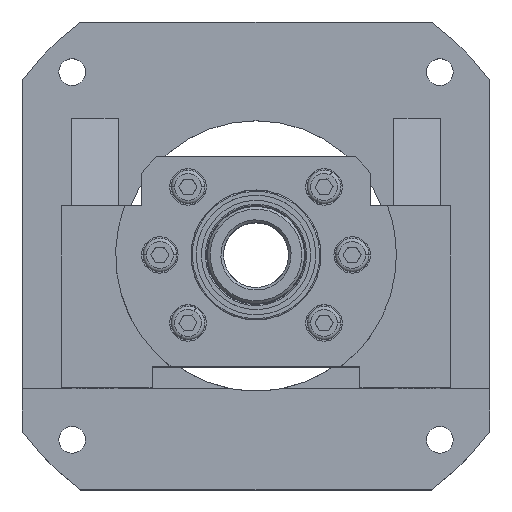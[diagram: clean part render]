
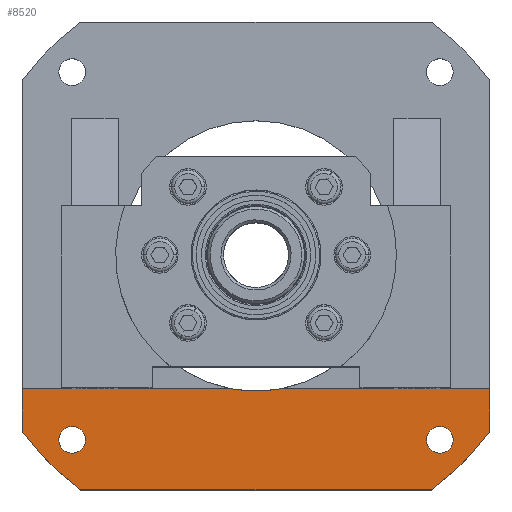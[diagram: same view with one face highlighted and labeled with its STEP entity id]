
A CAD part, top view. The second image highlights one B-rep face of the part: STEP entity #8520.
In plain terms, the highlighted planar face has unit normal (0, 0, 1).
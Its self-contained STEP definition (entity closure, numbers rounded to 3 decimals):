
#29 = CARTESIAN_POINT ( 'NONE',  ( 90., 90., 21. ) ) ;
#329 = CARTESIAN_POINT ( 'NONE',  ( -70.711, -70.711, 21. ) ) ;
#545 = CARTESIAN_POINT ( 'NONE',  ( -104.626, -111., 21. ) ) ;
#688 = DIRECTION ( 'NONE',  ( 1., 0., 0. ) ) ;
#805 = CARTESIAN_POINT ( 'NONE',  ( -90., -51.01, 21. ) ) ;
#850 = DIRECTION ( 'NONE',  ( 1., 0., 0. ) ) ;
#864 = EDGE_CURVE ( 'NONE', #5381, #9697, #5578, .T. ) ;
#994 = EDGE_CURVE ( 'NONE', #8049, #8608, #7387, .T. ) ;
#1018 = DIRECTION ( 'NONE',  ( 0., 0., 1. ) ) ;
#1047 = VERTEX_POINT ( 'NONE', #7790 ) ;
#1379 = DIRECTION ( 'NONE',  ( 1., 0., 0. ) ) ;
#1600 = LINE ( 'NONE', #6221, #12795 ) ;
#1941 = DIRECTION ( 'NONE',  ( 0., 0., 1. ) ) ;
#2032 = FACE_BOUND ( 'NONE', #9865, .T. ) ;
#2037 = CARTESIAN_POINT ( 'NONE',  ( -67.5, -90., 21. ) ) ;
#2052 = ORIENTED_EDGE ( 'NONE', *, *, #5042, .T. ) ;
#2174 = VERTEX_POINT ( 'NONE', #4423 ) ;
#2371 = VERTEX_POINT ( 'NONE', #8318 ) ;
#2378 = VECTOR ( 'NONE', #6810, 1000. ) ;
#2480 = ORIENTED_EDGE ( 'NONE', *, *, #8106, .F. ) ;
#2627 = ORIENTED_EDGE ( 'NONE', *, *, #864, .F. ) ;
#2649 = DIRECTION ( 'NONE',  ( 0., 0., 1. ) ) ;
#2890 = ORIENTED_EDGE ( 'NONE', *, *, #994, .F. ) ;
#2941 = CARTESIAN_POINT ( 'NONE',  ( -70.711, -70.711, 21. ) ) ;
#3121 = CIRCLE ( 'NONE', #3489, 5.15 ) ;
#3260 = VERTEX_POINT ( 'NONE', #6612 ) ;
#3297 = VECTOR ( 'NONE', #10547, 1000. ) ;
#3489 = AXIS2_PLACEMENT_3D ( 'NONE', #2941, #10331, #4011 ) ;
#3842 = CARTESIAN_POINT ( 'NONE',  ( 10.099, -51.01, 21. ) ) ;
#3954 = CIRCLE ( 'NONE', #6173, 5.15 ) ;
#4011 = DIRECTION ( 'NONE',  ( 1., 0., 0. ) ) ;
#4063 = DIRECTION ( 'NONE',  ( 0., 0., 1. ) ) ;
#4197 = EDGE_CURVE ( 'NONE', #7016, #1047, #1600, .T. ) ;
#4209 = CARTESIAN_POINT ( 'NONE',  ( -90., -90., 21. ) ) ;
#4233 = AXIS2_PLACEMENT_3D ( 'NONE', #545, #2649, #10036 ) ;
#4423 = CARTESIAN_POINT ( 'NONE',  ( -65.561, -70.711, 21. ) ) ;
#4502 = CIRCLE ( 'NONE', #5970, 112.5 ) ;
#4539 = AXIS2_PLACEMENT_3D ( 'NONE', #4979, #12320, #6730 ) ;
#4872 = VERTEX_POINT ( 'NONE', #13328 ) ;
#4979 = CARTESIAN_POINT ( 'NONE',  ( 70.711, -70.711, 21. ) ) ;
#5006 = ORIENTED_EDGE ( 'NONE', *, *, #10434, .F. ) ;
#5031 = AXIS2_PLACEMENT_3D ( 'NONE', #10386, #4063, #11419 ) ;
#5042 = EDGE_CURVE ( 'NONE', #11026, #3260, #10492, .T. ) ;
#5071 = ORIENTED_EDGE ( 'NONE', *, *, #4197, .T. ) ;
#5166 = ORIENTED_EDGE ( 'NONE', *, *, #11927, .F. ) ;
#5170 = CARTESIAN_POINT ( 'NONE',  ( -91.047, -51.01, 21. ) ) ;
#5381 = VERTEX_POINT ( 'NONE', #9829 ) ;
#5510 = CARTESIAN_POINT ( 'NONE',  ( -10.099, -51.01, 21. ) ) ;
#5578 = CIRCLE ( 'NONE', #4539, 5.15 ) ;
#5970 = AXIS2_PLACEMENT_3D ( 'NONE', #7329, #1018, #8398 ) ;
#6173 = AXIS2_PLACEMENT_3D ( 'NONE', #8255, #1941, #9317 ) ;
#6221 = CARTESIAN_POINT ( 'NONE',  ( -90., 90., 21. ) ) ;
#6612 = CARTESIAN_POINT ( 'NONE',  ( 67.5, -90., 21. ) ) ;
#6730 = DIRECTION ( 'NONE',  ( 1., 0., 0. ) ) ;
#6810 = DIRECTION ( 'NONE',  ( 1., 0., 0. ) ) ;
#7016 = VERTEX_POINT ( 'NONE', #805 ) ;
#7072 = VECTOR ( 'NONE', #688, 1000. ) ;
#7166 = DIRECTION ( 'NONE',  ( 0., 0., -1. ) ) ;
#7329 = CARTESIAN_POINT ( 'NONE',  ( 0., 0., 21. ) ) ;
#7387 = LINE ( 'NONE', #13299, #7072 ) ;
#7429 = EDGE_CURVE ( 'NONE', #7016, #8932, #13024, .T. ) ;
#7511 = EDGE_CURVE ( 'NONE', #2371, #8608, #11369, .T. ) ;
#7641 = FACE_OUTER_BOUND ( 'NONE', #9660, .T. ) ;
#7693 = DIRECTION ( 'NONE',  ( 0., 0., 1. ) ) ;
#7746 = EDGE_CURVE ( 'NONE', #1047, #11026, #10077, .T. ) ;
#7790 = CARTESIAN_POINT ( 'NONE',  ( -90., -67.5, 21. ) ) ;
#7881 = CIRCLE ( 'NONE', #13220, 5.15 ) ;
#8049 = VERTEX_POINT ( 'NONE', #3842 ) ;
#8102 = CARTESIAN_POINT ( 'NONE',  ( 75.861, -70.711, 21. ) ) ;
#8106 = EDGE_CURVE ( 'NONE', #9697, #5381, #3954, .T. ) ;
#8169 = ORIENTED_EDGE ( 'NONE', *, *, #9736, .T. ) ;
#8255 = CARTESIAN_POINT ( 'NONE',  ( 70.711, -70.711, 21. ) ) ;
#8318 = CARTESIAN_POINT ( 'NONE',  ( 90., -67.5, 21. ) ) ;
#8396 = ORIENTED_EDGE ( 'NONE', *, *, #9304, .T. ) ;
#8398 = DIRECTION ( 'NONE',  ( 1., 0., 0. ) ) ;
#8520 = ADVANCED_FACE ( 'NONE', ( #7641, #10130, #2032 ), #8776, .T. ) ;
#8608 = VERTEX_POINT ( 'NONE', #9113 ) ;
#8776 = PLANE ( 'NONE',  #4233 ) ;
#8932 = VERTEX_POINT ( 'NONE', #5510 ) ;
#9113 = CARTESIAN_POINT ( 'NONE',  ( 90., -51.01, 21. ) ) ;
#9304 = EDGE_CURVE ( 'NONE', #3260, #2371, #4502, .T. ) ;
#9317 = DIRECTION ( 'NONE',  ( 1., 0., 0. ) ) ;
#9325 = ORIENTED_EDGE ( 'NONE', *, *, #7746, .T. ) ;
#9660 = EDGE_LOOP ( 'NONE', ( #10296, #5071, #9325, #2052, #8396, #10469, #2890, #8169 ) ) ;
#9697 = VERTEX_POINT ( 'NONE', #8102 ) ;
#9736 = EDGE_CURVE ( 'NONE', #8049, #8932, #13551, .T. ) ;
#9829 = CARTESIAN_POINT ( 'NONE',  ( 65.561, -70.711, 21. ) ) ;
#9865 = EDGE_LOOP ( 'NONE', ( #5166, #5006 ) ) ;
#10036 = DIRECTION ( 'NONE',  ( 1., 0., 0. ) ) ;
#10077 = CIRCLE ( 'NONE', #5031, 112.5 ) ;
#10130 = FACE_BOUND ( 'NONE', #10934, .T. ) ;
#10296 = ORIENTED_EDGE ( 'NONE', *, *, #7429, .F. ) ;
#10331 = DIRECTION ( 'NONE',  ( 0., 0., 1. ) ) ;
#10386 = CARTESIAN_POINT ( 'NONE',  ( 0., 0., 21. ) ) ;
#10434 = EDGE_CURVE ( 'NONE', #2174, #4872, #3121, .T. ) ;
#10469 = ORIENTED_EDGE ( 'NONE', *, *, #7511, .T. ) ;
#10492 = LINE ( 'NONE', #4209, #2378 ) ;
#10547 = DIRECTION ( 'NONE',  ( 0., 1., 0. ) ) ;
#10934 = EDGE_LOOP ( 'NONE', ( #2627, #2480 ) ) ;
#11026 = VERTEX_POINT ( 'NONE', #2037 ) ;
#11369 = LINE ( 'NONE', #29, #3297 ) ;
#11419 = DIRECTION ( 'NONE',  ( 1., 0., 0. ) ) ;
#11446 = DIRECTION ( 'NONE',  ( 1., 0., 0. ) ) ;
#11927 = EDGE_CURVE ( 'NONE', #4872, #2174, #7881, .T. ) ;
#12320 = DIRECTION ( 'NONE',  ( 0., 0., 1. ) ) ;
#12510 = DIRECTION ( 'NONE',  ( 0., -1., 0. ) ) ;
#12745 = AXIS2_PLACEMENT_3D ( 'NONE', #13466, #7166, #850 ) ;
#12795 = VECTOR ( 'NONE', #12510, 1000. ) ;
#13024 = LINE ( 'NONE', #5170, #13360 ) ;
#13220 = AXIS2_PLACEMENT_3D ( 'NONE', #329, #7693, #1379 ) ;
#13299 = CARTESIAN_POINT ( 'NONE',  ( -91.047, -51.01, 21. ) ) ;
#13328 = CARTESIAN_POINT ( 'NONE',  ( -75.861, -70.711, 21. ) ) ;
#13360 = VECTOR ( 'NONE', #11446, 1000. ) ;
#13466 = CARTESIAN_POINT ( 'NONE',  ( 0., 0., 21. ) ) ;
#13551 = CIRCLE ( 'NONE', #12745, 52. ) ;
